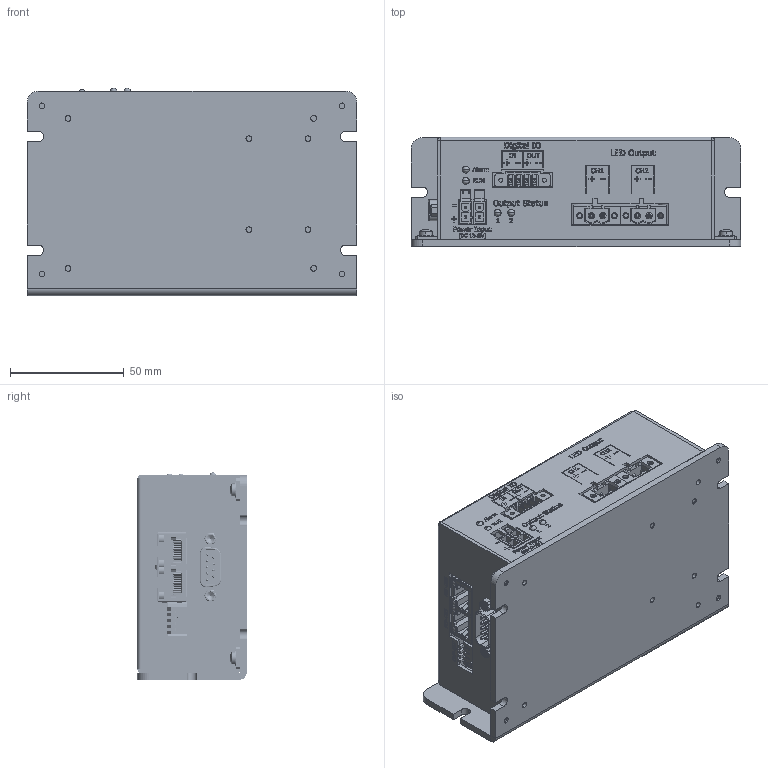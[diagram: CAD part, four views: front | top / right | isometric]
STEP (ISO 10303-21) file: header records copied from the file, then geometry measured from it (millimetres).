
FILE_DESCRIPTION (( 'STEP AP214' ), '1' );
FILE_NAME ('IP-2P2S-20A.STEP', '2022-11-21T02:58:18', ( '' ), ( '' ), 'SwSTEP 2.0', 'SolidWorks 2022', '' );
FILE_SCHEMA (( 'AUTOMOTIVE_DESIGN' ));
Length unit declared in the file: millimetre
Products named in the file (21): Rev1Base; Rev1DS1040-04RT; cross recessed pan head screw_jis_JIS B 1111 Cross recessed pan head screw - M3 x 4 - Z --4N; 20020111h021a01lf; Rev1026013114; IP-2P2S-20A; Rev1VCC - 553-0122 CBI 2POS Bi-Level LED; Rev12xRJ45 Modular Jack - TE Connectivity 5-6610000-1; Rev1SubPCB; Rev1d-sub_9pin_right_angle_pcb; Rev1led_everlight_3mm_90_degrees_green_Valor predeterminado; Rev1TopPCB; Rev1Cover(CH2)_기본<가공 상태>; socket head cap screw_ks_KS 1003 - M3 x 5 x 5-N; Rev1Support15; Rev1MainPCB; Rev1BottomPCB; Rev1ThermalPanel; countersunk flat cross head screw_ks_KS 1023 FC- M3 x 5-N; 395061004; finished circular plain washer_jis_JIS B 1256 Finished circular 3
Assembly tree (34 placements, depth 3):
  IP-2P2S-20A
    Rev1Base
    Rev1MainPCB
      Rev1BottomPCB
      Rev1d-sub_9pin_right_angle_pcb
      Rev1026013114  x2
      Rev1led_everlight_3mm_90_degrees_green_Valor predeterminado  x2
      20020111h021a01lf  x2
    Rev1Support15  x2
    Rev1SubPCB
      Rev1TopPCB
      Rev1DS1040-04RT
      Rev12xRJ45 Modular Jack - TE Connectivity 5-6610000-1
      Rev1VCC - 553-0122 CBI 2POS Bi-Level LED
      395061004
    Rev1Cover(CH2)_기본<가공 상태>
    Rev1ThermalPanel
    countersunk flat cross head screw_ks_KS 1023 FC- M3 x 5-N  x2
    socket head cap screw_ks_KS 1003 - M3 x 5 x 5-N  x4
    finished circular plain washer_jis_JIS B 1256 Finished circular 3  x4
    cross recessed pan head screw_jis_JIS B 1111 Cross recessed pan head screw - M3 x 4 - Z --4N  x4
Bounding box: 145 x 48 x 91.2 mm (x, y, z)
Volume: 140855.6 mm3; surface area: 148755.1 mm2
Topology: 165 solids, 165 shells, 6076 faces, 15775 edges, 10086 vertices
Faces by surface type: plane 3731, cylinder 1083, bspline 918, cone 202, sphere 74, torus 68
Entity records: 279779 total; most frequent: CARTESIAN_POINT 101476, ORIENTED_EDGE 28306, DIRECTION 23053, EDGE_CURVE 14153, LINE 9889, VECTOR 9889, VERTEX_POINT 9109, AXIS2_PLACEMENT_3D 6582
